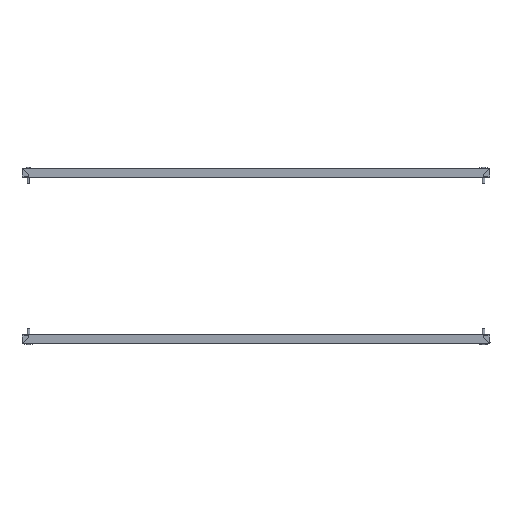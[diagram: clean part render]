
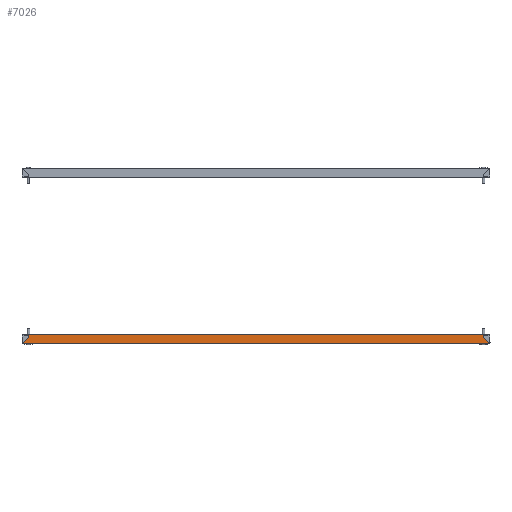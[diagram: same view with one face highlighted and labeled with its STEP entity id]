
A CAD part, front view. The second image highlights one B-rep face of the part: STEP entity #7026.
In plain terms, the highlighted planar face has unit normal (0, -1, 0).
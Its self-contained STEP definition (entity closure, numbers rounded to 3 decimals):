
#955 = DIRECTION ( 'NONE',  ( 0., 0., -1. ) ) ;
#979 = CARTESIAN_POINT ( 'NONE',  ( 497.046, -50., 0.6 ) ) ;
#985 = CARTESIAN_POINT ( 'NONE',  ( 0., -50., 0. ) ) ;
#1053 = CARTESIAN_POINT ( 'NONE',  ( -497.223, -50., -1.5 ) ) ;
#1056 = DIRECTION ( 'NONE',  ( 0.707, 0., -0.707 ) ) ;
#1082 = EDGE_CURVE ( 'NONE', #9604, #9805, #4227, .T. ) ;
#1202 = CARTESIAN_POINT ( 'NONE',  ( -497.121, -50., -0.099 ) ) ;
#1304 = ORIENTED_EDGE ( 'NONE', *, *, #1082, .F. ) ;
#1369 = VECTOR ( 'NONE', #5871, 1000. ) ;
#1521 = EDGE_CURVE ( 'NONE', #6714, #9805, #4769, .T. ) ;
#1593 = CARTESIAN_POINT ( 'NONE',  ( 497.121, -50., -0.099 ) ) ;
#1615 = ORIENTED_EDGE ( 'NONE', *, *, #6493, .T. ) ;
#1717 = VECTOR ( 'NONE', #1056, 1000. ) ;
#1868 = CARTESIAN_POINT ( 'NONE',  ( 0., -50., 17.5 ) ) ;
#1881 = CARTESIAN_POINT ( 'NONE',  ( 497.223, -50., -1.5 ) ) ;
#1942 = ORIENTED_EDGE ( 'NONE', *, *, #6823, .F. ) ;
#2152 = CARTESIAN_POINT ( 'NONE',  ( -486., -50., 17.5 ) ) ;
#2492 = CARTESIAN_POINT ( 'NONE',  ( 497.181, -50., -0.799 ) ) ;
#2644 = CARTESIAN_POINT ( 'NONE',  ( -486., -50., 11.646 ) ) ;
#2675 = DIRECTION ( 'NONE',  ( 0.707, 0., 0.707 ) ) ;
#2980 = CARTESIAN_POINT ( 'NONE',  ( -497.046, -50., 0.6 ) ) ;
#3199 = EDGE_LOOP ( 'NONE', ( #4853, #1615, #6339, #3437, #1304, #5589, #3400, #1942 ) ) ;
#3367 = CARTESIAN_POINT ( 'NONE',  ( -497.046, -50., 0.6 ) ) ;
#3400 = ORIENTED_EDGE ( 'NONE', *, *, #5189, .T. ) ;
#3437 = ORIENTED_EDGE ( 'NONE', *, *, #1521, .T. ) ;
#3441 = DIRECTION ( 'NONE',  ( 1., 0., 0. ) ) ;
#3878 = PLANE ( 'NONE',  #7819 ) ;
#4056 = VECTOR ( 'NONE', #3441, 1000. ) ;
#4227 = LINE ( 'NONE', #3367, #8693 ) ;
#4337 = B_SPLINE_CURVE_WITH_KNOTS ( 'NONE', 3,
 ( #5720, #4960, #1202, #8805, #8858, #1053 ),
 .UNSPECIFIED., .F., .F.,
 ( 4, 2, 4 ),
 ( 0.005, 0.006, 0.008 ),
 .UNSPECIFIED. ) ;
#4356 = LINE ( 'NONE', #7248, #4056 ) ;
#4520 = VERTEX_POINT ( 'NONE', #979 ) ;
#4663 = CARTESIAN_POINT ( 'NONE',  ( 497.046, -50., 0.6 ) ) ;
#4769 = LINE ( 'NONE', #9155, #9803 ) ;
#4781 = VERTEX_POINT ( 'NONE', #9722 ) ;
#4853 = ORIENTED_EDGE ( 'NONE', *, *, #9268, .F. ) ;
#4912 = LINE ( 'NONE', #8056, #1717 ) ;
#4960 = CARTESIAN_POINT ( 'NONE',  ( -497.084, -50., 0.251 ) ) ;
#5189 = EDGE_CURVE ( 'NONE', #6906, #5628, #4356, .T. ) ;
#5474 = CARTESIAN_POINT ( 'NONE',  ( 486., -50., 11.646 ) ) ;
#5496 = DIRECTION ( 'NONE',  ( 0., 1., 0. ) ) ;
#5589 = ORIENTED_EDGE ( 'NONE', *, *, #6948, .T. ) ;
#5628 = VERTEX_POINT ( 'NONE', #1881 ) ;
#5720 = CARTESIAN_POINT ( 'NONE',  ( -497.046, -50., 0.6 ) ) ;
#5827 = CARTESIAN_POINT ( 'NONE',  ( 486., -50., 11.646 ) ) ;
#5871 = DIRECTION ( 'NONE',  ( 0., 0., 1. ) ) ;
#6155 = VERTEX_POINT ( 'NONE', #5474 ) ;
#6339 = ORIENTED_EDGE ( 'NONE', *, *, #8811, .T. ) ;
#6493 = EDGE_CURVE ( 'NONE', #6155, #4781, #7698, .T. ) ;
#6714 = VERTEX_POINT ( 'NONE', #2152 ) ;
#6823 = EDGE_CURVE ( 'NONE', #4520, #5628, #9125, .T. ) ;
#6906 = VERTEX_POINT ( 'NONE', #8101 ) ;
#6948 = EDGE_CURVE ( 'NONE', #9604, #6906, #4337, .T. ) ;
#7026 = ADVANCED_FACE ( 'NONE', ( #7993 ), #3878, .F. ) ;
#7027 = CARTESIAN_POINT ( 'NONE',  ( 497.084, -50., 0.251 ) ) ;
#7066 = DIRECTION ( 'NONE',  ( 0., 0., 1. ) ) ;
#7086 = CARTESIAN_POINT ( 'NONE',  ( 497.223, -50., -1.5 ) ) ;
#7248 = CARTESIAN_POINT ( 'NONE',  ( 0., -50., -1.5 ) ) ;
#7698 = LINE ( 'NONE', #5827, #1369 ) ;
#7819 = AXIS2_PLACEMENT_3D ( 'NONE', #985, #5496, #7066 ) ;
#7993 = FACE_OUTER_BOUND ( 'NONE', #3199, .T. ) ;
#8019 = DIRECTION ( 'NONE',  ( -1., 0., 0. ) ) ;
#8056 = CARTESIAN_POINT ( 'NONE',  ( -205.986, -50., 703.632 ) ) ;
#8101 = CARTESIAN_POINT ( 'NONE',  ( -497.223, -50., -1.5 ) ) ;
#8659 = VECTOR ( 'NONE', #8019, 1000. ) ;
#8693 = VECTOR ( 'NONE', #2675, 1000. ) ;
#8780 = LINE ( 'NONE', #1868, #8659 ) ;
#8805 = CARTESIAN_POINT ( 'NONE',  ( -497.181, -50., -0.799 ) ) ;
#8811 = EDGE_CURVE ( 'NONE', #4781, #6714, #8780, .T. ) ;
#8858 = CARTESIAN_POINT ( 'NONE',  ( -497.204, -50., -1.149 ) ) ;
#9125 = B_SPLINE_CURVE_WITH_KNOTS ( 'NONE', 3,
 ( #4663, #7027, #1593, #2492, #9300, #7086 ),
 .UNSPECIFIED., .F., .F.,
 ( 4, 2, 4 ),
 ( 0.005, 0.006, 0.008 ),
 .UNSPECIFIED. ) ;
#9155 = CARTESIAN_POINT ( 'NONE',  ( -486., -50., 11.646 ) ) ;
#9268 = EDGE_CURVE ( 'NONE', #6155, #4520, #4912, .T. ) ;
#9300 = CARTESIAN_POINT ( 'NONE',  ( 497.204, -50., -1.149 ) ) ;
#9604 = VERTEX_POINT ( 'NONE', #2980 ) ;
#9722 = CARTESIAN_POINT ( 'NONE',  ( 486., -50., 17.5 ) ) ;
#9803 = VECTOR ( 'NONE', #955, 1000. ) ;
#9805 = VERTEX_POINT ( 'NONE', #2644 ) ;
